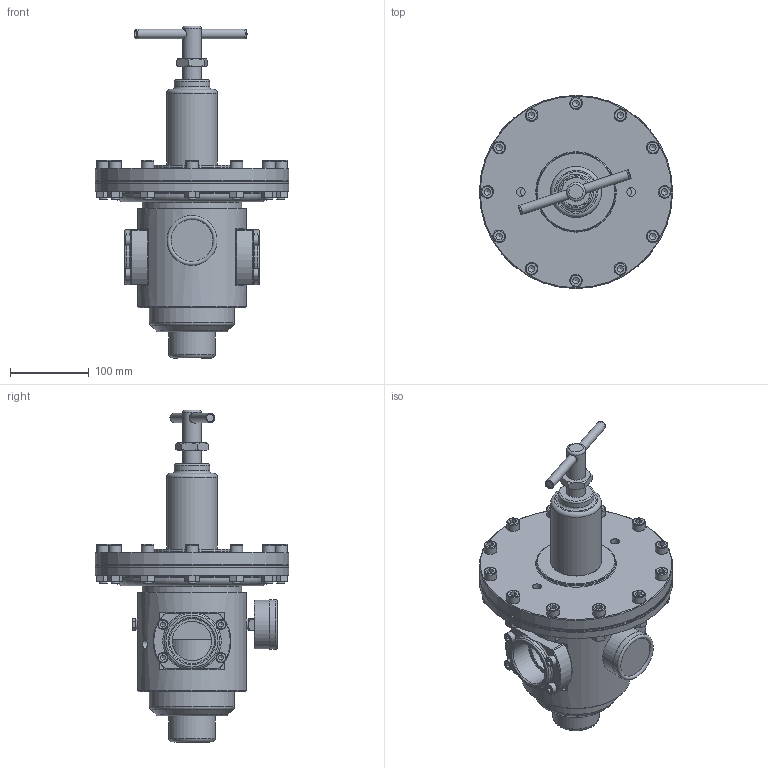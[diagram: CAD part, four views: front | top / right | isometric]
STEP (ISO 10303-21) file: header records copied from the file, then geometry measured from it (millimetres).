
FILE_DESCRIPTION((''),'2;1');
FILE_NAME('C:\DISEGNI\3D\Consultazione\Complessivi\C01258.stp','2012-03-07T16:28:57',('filippocerofolini'),(''),'Autodesk Inventor 2010','Autodesk Inventor 2010','');
FILE_SCHEMA(('AUTOMOTIVE_DESIGN { 1 0 10303 214 1 1 1 1 }'));
Length unit declared in the file: millimetre
Products named in the file (26): C01258stp; P20367; P34140; P34141; P37063; C01250 - O Ring 3243; 0ABNCC07; P34014; UNI 5931 M 8 x  30; P64007; UNI 5589 M10; P31004; P64019; C01256 - P23023; C01256 - P23024; C43013; P43064; P30012; 0ED07B; 0DN111; UNI 5931 M 10 x  40; UNI 5588 M10; C55005; Welds_1; P55013; P55015
Assembly tree (57 placements, depth 3):
  C01258stp
    P20367
    P34140
    P34141
    P37063  x2
    C01250 - O Ring 3243  x2
    0ABNCC07
    P34014
    UNI 5931 M 8 x  30  x8
    P64007
    UNI 5589 M10  x2
    P31004
    P64019
    C01256 - P23023
    C01256 - P23024
    C43013
      P43064
      P30012
      0ED07B
      0DN111
    UNI 5931 M 10 x  40  x12
    UNI 5588 M10  x12
    C55005
      Welds_1
      P55013
      P55015
Bounding box: 245 x 245 x 421 mm (x, y, z)
Volume: 3053933.1 mm3; surface area: 808583.8 mm2
Topology: 55 solids, 55 shells, 1134 faces, 2541 edges, 1593 vertices
Faces by surface type: plane 419, cone 303, bspline 232, cylinder 126, torus 47, revolution 6, sphere 1
Full cylindrical faces by diameter (mm): 5 x1, 7.5 x1, 8 x8, 10 x15, 10.1 x1, 11 x1, 11.445 x1, 12 x1, 12.2 x1, 13 x8, 13.157 x2, 14 x1, 14.5 x2, 16 x13, 21 x1, 24 x1, 35 x1, 41.5 x1, 45 x1, 47.5 x1, 50 x3, 51.2 x2, 51.6 x1, 55 x1, 56 x1, 57 x1, 58 x2, 58.5 x1, 59 x1, 61.5 x2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
Entity records: 17934 total; most frequent: CARTESIAN_POINT 6850, DIRECTION 2122, ORIENTED_EDGE 1676, EDGE_LOOP 1073, AXIS2_PLACEMENT_3D 1000, EDGE_CURVE 838, VERTEX_POINT 681, FACE_OUTER_BOUND 556
